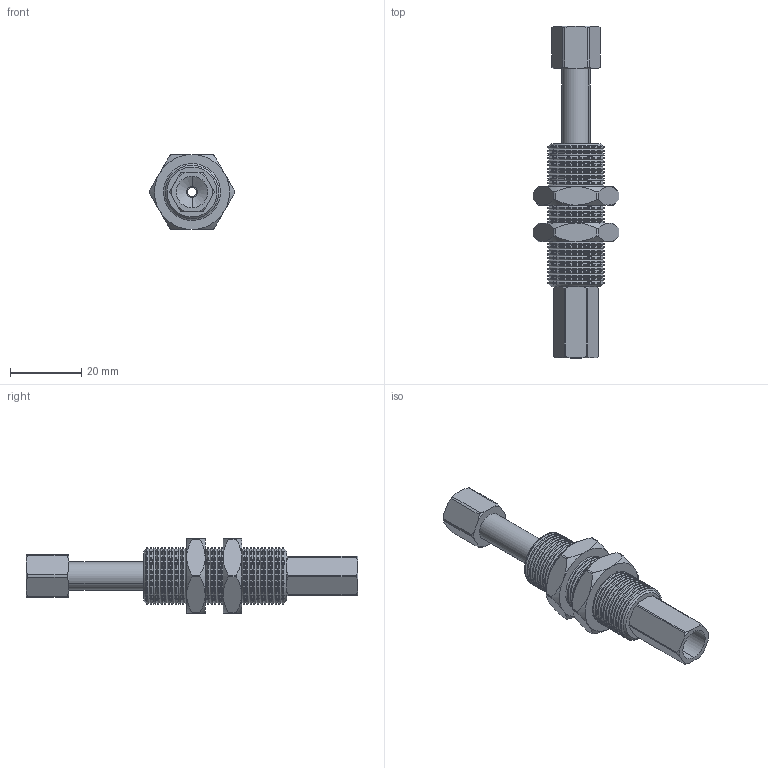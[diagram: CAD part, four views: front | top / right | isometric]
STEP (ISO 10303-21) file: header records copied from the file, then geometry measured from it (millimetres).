
FILE_DESCRIPTION (( 'STEP AP214' ), '1' );
FILE_NAME ('VFRT1621-G18.STEP', '2023-03-09T02:08:22', ( 'Windows User' ), ( 'P R C' ), 'SwSTEP 2.0', 'SolidWorks 2019', '' );
FILE_SCHEMA (( 'AUTOMOTIVE_DESIGN' ));
Length unit declared in the file: millimetre
Products named in the file (5): 2.Y01805; M161.0蹟譫; 2.Y01804; VFRT1621-G18; VFRT1621-G18掛极
Assembly tree (5 placements, depth 2):
  VFRT1621-G18
    2.Y01804
    2.Y01805
    VFRT1621-G18掛极
    M161.0蹟譫  x2
Bounding box: 24 x 93 x 21 mm (x, y, z)
Volume: 12375.4 mm3; surface area: 10576 mm2
Topology: 5 solids, 5 shells, 423 faces, 910 edges, 502 vertices
Faces by surface type: cone 242, cylinder 142, plane 39
Entity records: 10902 total; most frequent: CARTESIAN_POINT 2021, DIRECTION 1980, ORIENTED_EDGE 1688, EDGE_CURVE 844, AXIS2_PLACEMENT_3D 805, VERTEX_POINT 462, EDGE_LOOP 408, CIRCLE 402
